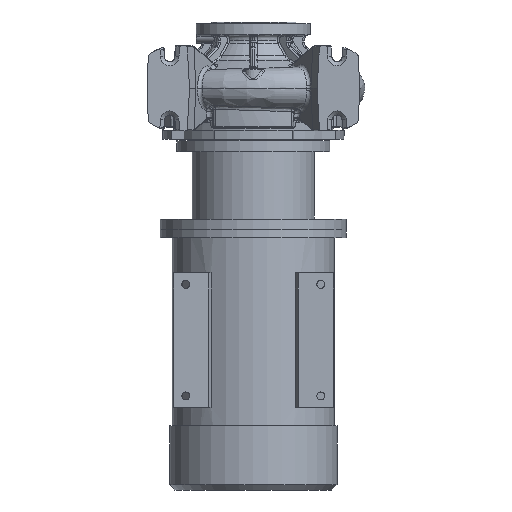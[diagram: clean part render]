
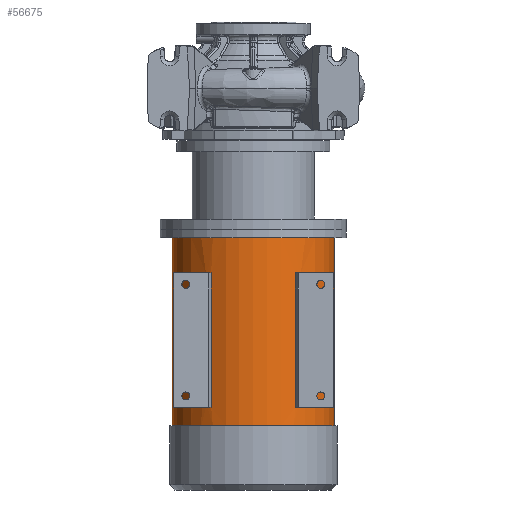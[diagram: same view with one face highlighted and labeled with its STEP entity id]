
A CAD part, front view. The second image highlights one B-rep face of the part: STEP entity #56675.
In plain terms, the highlighted cylindrical face has radius 152.5 mm (diameter 305 mm), a partial arc.
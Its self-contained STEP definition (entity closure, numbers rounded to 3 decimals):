
#1095 = VERTEX_POINT ( 'NONE', #65146 ) ;
#1857 = LINE ( 'NONE', #53153, #47134 ) ;
#2538 = CARTESIAN_POINT ( 'NONE',  ( 0., 0., -755.8 ) ) ;
#3019 = CIRCLE ( 'NONE', #22350, 152.5 ) ;
#3141 = DIRECTION ( 'NONE',  ( 0., 0., -1. ) ) ;
#3297 = CIRCLE ( 'NONE', #10461, 152.5 ) ;
#3655 = AXIS2_PLACEMENT_3D ( 'NONE', #28868, #56666, #13694 ) ;
#4927 = ORIENTED_EDGE ( 'NONE', *, *, #64813, .T. ) ;
#5490 = CIRCLE ( 'NONE', #3655, 152.5 ) ;
#5538 = DIRECTION ( 'NONE',  ( 0., 0., -1. ) ) ;
#8414 = CIRCLE ( 'NONE', #43609, 152.5 ) ;
#8687 = CARTESIAN_POINT ( 'NONE',  ( -79.357, -130.226, -347.3 ) ) ;
#9581 = DIRECTION ( 'NONE',  ( -1., 0., 0. ) ) ;
#10350 = VECTOR ( 'NONE', #74261, 1000. ) ;
#10461 = AXIS2_PLACEMENT_3D ( 'NONE', #73557, #10750, #9581 ) ;
#10547 = VERTEX_POINT ( 'NONE', #74054 ) ;
#10750 = DIRECTION ( 'NONE',  ( 0., 0., -1. ) ) ;
#11011 = DIRECTION ( 'NONE',  ( -1., 0., 0. ) ) ;
#12032 = CARTESIAN_POINT ( 'NONE',  ( 89.37, -123.569, -755.8 ) ) ;
#13357 = VERTEX_POINT ( 'NONE', #46115 ) ;
#13420 = VECTOR ( 'NONE', #5538, 1000. ) ;
#13694 = DIRECTION ( 'NONE',  ( -1., 0., 0. ) ) ;
#14976 = VERTEX_POINT ( 'NONE', #8687 ) ;
#15272 = DIRECTION ( 'NONE',  ( 0., 0., 1. ) ) ;
#15973 = EDGE_CURVE ( 'NONE', #37696, #77332, #5490, .T. ) ;
#17572 = VERTEX_POINT ( 'NONE', #76670 ) ;
#20765 = ORIENTED_EDGE ( 'NONE', *, *, #54645, .T. ) ;
#21584 = ORIENTED_EDGE ( 'NONE', *, *, #15973, .F. ) ;
#22323 = LINE ( 'NONE', #12032, #13420 ) ;
#22350 = AXIS2_PLACEMENT_3D ( 'NONE', #87629, #45918, #11011 ) ;
#23608 = CARTESIAN_POINT ( 'NONE',  ( -79.357, -130.226, -600.3 ) ) ;
#23656 = AXIS2_PLACEMENT_3D ( 'NONE', #42922, #34587, #70170 ) ;
#23885 = VERTEX_POINT ( 'NONE', #23608 ) ;
#24451 = DIRECTION ( 'NONE',  ( 0., 0., -1. ) ) ;
#24854 = CARTESIAN_POINT ( 'NONE',  ( -79.357, -130.226, -755.8 ) ) ;
#27127 = VERTEX_POINT ( 'NONE', #50569 ) ;
#28868 = CARTESIAN_POINT ( 'NONE',  ( 0., 0., -634.8 ) ) ;
#29372 = EDGE_CURVE ( 'NONE', #23885, #14976, #45010, .T. ) ;
#30484 = VERTEX_POINT ( 'NONE', #54366 ) ;
#31166 = ORIENTED_EDGE ( 'NONE', *, *, #68361, .F. ) ;
#31902 = DIRECTION ( 'NONE',  ( 0., 0., -1. ) ) ;
#32072 = VECTOR ( 'NONE', #77791, 1000. ) ;
#32794 = CARTESIAN_POINT ( 'NONE',  ( 79.357, -130.226, -755.8 ) ) ;
#33571 = VERTEX_POINT ( 'NONE', #48070 ) ;
#34587 = DIRECTION ( 'NONE',  ( 0., 0., -1. ) ) ;
#34948 = ORIENTED_EDGE ( 'NONE', *, *, #89770, .F. ) ;
#35084 = FACE_BOUND ( 'NONE', #63930, .T. ) ;
#35130 = CIRCLE ( 'NONE', #45528, 152.5 ) ;
#36947 = EDGE_CURVE ( 'NONE', #13357, #1095, #35130, .T. ) ;
#37111 = ORIENTED_EDGE ( 'NONE', *, *, #29372, .F. ) ;
#37696 = VERTEX_POINT ( 'NONE', #47539 ) ;
#37854 = EDGE_LOOP ( 'NONE', ( #37111, #70721, #31166, #34948 ) ) ;
#38448 = DIRECTION ( 'NONE',  ( 0., 0., 1. ) ) ;
#42689 = EDGE_CURVE ( 'NONE', #17572, #27127, #3019, .T. ) ;
#42922 = CARTESIAN_POINT ( 'NONE',  ( 0., 0., -347.3 ) ) ;
#43609 = AXIS2_PLACEMENT_3D ( 'NONE', #58470, #3141, #72712 ) ;
#45010 = LINE ( 'NONE', #24854, #57186 ) ;
#45528 = AXIS2_PLACEMENT_3D ( 'NONE', #49588, #15272, #71865 ) ;
#45918 = DIRECTION ( 'NONE',  ( 0., 0., 1. ) ) ;
#46115 = CARTESIAN_POINT ( 'NONE',  ( 79.357, -130.226, -600.3 ) ) ;
#47134 = VECTOR ( 'NONE', #68881, 1000. ) ;
#47539 = CARTESIAN_POINT ( 'NONE',  ( 152.5, 0., -634.8 ) ) ;
#48070 = CARTESIAN_POINT ( 'NONE',  ( -152.5, 0., -280.8 ) ) ;
#48282 = CARTESIAN_POINT ( 'NONE',  ( -152.5, 0., -634.8 ) ) ;
#49588 = CARTESIAN_POINT ( 'NONE',  ( 0., 0., -600.3 ) ) ;
#50569 = CARTESIAN_POINT ( 'NONE',  ( 89.37, -123.569, -347.3 ) ) ;
#51237 = VECTOR ( 'NONE', #31902, 1000. ) ;
#52766 = FACE_BOUND ( 'NONE', #37854, .T. ) ;
#53153 = CARTESIAN_POINT ( 'NONE',  ( -89.37, -123.569, -755.8 ) ) ;
#53799 = CARTESIAN_POINT ( 'NONE',  ( 152.5, 0., -755.8 ) ) ;
#54366 = CARTESIAN_POINT ( 'NONE',  ( -89.37, -123.569, -347.3 ) ) ;
#54618 = EDGE_CURVE ( 'NONE', #61891, #37696, #68956, .T. ) ;
#54645 = EDGE_CURVE ( 'NONE', #13357, #17572, #60086, .T. ) ;
#55138 = CIRCLE ( 'NONE', #23656, 152.5 ) ;
#56666 = DIRECTION ( 'NONE',  ( 0., 0., -1. ) ) ;
#56675 = ADVANCED_FACE ( 'NONE', ( #69436, #35084, #52766 ), #89235, .T. ) ;
#57186 = VECTOR ( 'NONE', #38448, 1000. ) ;
#58470 = CARTESIAN_POINT ( 'NONE',  ( 0., 0., -600.3 ) ) ;
#58701 = LINE ( 'NONE', #78110, #32072 ) ;
#59068 = DIRECTION ( 'NONE',  ( -1., 0., 0. ) ) ;
#60086 = LINE ( 'NONE', #32794, #10350 ) ;
#61891 = VERTEX_POINT ( 'NONE', #85036 ) ;
#62091 = ORIENTED_EDGE ( 'NONE', *, *, #42689, .T. ) ;
#62769 = ORIENTED_EDGE ( 'NONE', *, *, #76480, .T. ) ;
#63930 = EDGE_LOOP ( 'NONE', ( #69085, #20765, #62091, #62769 ) ) ;
#64813 = EDGE_CURVE ( 'NONE', #61891, #33571, #3297, .T. ) ;
#65146 = CARTESIAN_POINT ( 'NONE',  ( 89.37, -123.569, -600.3 ) ) ;
#68361 = EDGE_CURVE ( 'NONE', #30484, #10547, #1857, .T. ) ;
#68881 = DIRECTION ( 'NONE',  ( 0., 0., -1. ) ) ;
#68956 = LINE ( 'NONE', #53799, #51237 ) ;
#69085 = ORIENTED_EDGE ( 'NONE', *, *, #36947, .F. ) ;
#69436 = FACE_OUTER_BOUND ( 'NONE', #82098, .T. ) ;
#70170 = DIRECTION ( 'NONE',  ( 1., 0., 0. ) ) ;
#70721 = ORIENTED_EDGE ( 'NONE', *, *, #85779, .T. ) ;
#70742 = AXIS2_PLACEMENT_3D ( 'NONE', #2538, #24451, #59068 ) ;
#71865 = DIRECTION ( 'NONE',  ( -1., 0., 0. ) ) ;
#72712 = DIRECTION ( 'NONE',  ( 1., 0., 0. ) ) ;
#73557 = CARTESIAN_POINT ( 'NONE',  ( 0., 0., -280.8 ) ) ;
#74054 = CARTESIAN_POINT ( 'NONE',  ( -89.37, -123.569, -600.3 ) ) ;
#74261 = DIRECTION ( 'NONE',  ( 0., 0., 1. ) ) ;
#75004 = EDGE_CURVE ( 'NONE', #33571, #77332, #58701, .T. ) ;
#76480 = EDGE_CURVE ( 'NONE', #27127, #1095, #22323, .T. ) ;
#76670 = CARTESIAN_POINT ( 'NONE',  ( 79.357, -130.226, -347.3 ) ) ;
#77332 = VERTEX_POINT ( 'NONE', #48282 ) ;
#77606 = ORIENTED_EDGE ( 'NONE', *, *, #54618, .F. ) ;
#77791 = DIRECTION ( 'NONE',  ( 0., 0., -1. ) ) ;
#78110 = CARTESIAN_POINT ( 'NONE',  ( -152.5, 0., -755.8 ) ) ;
#82098 = EDGE_LOOP ( 'NONE', ( #77606, #4927, #83255, #21584 ) ) ;
#83255 = ORIENTED_EDGE ( 'NONE', *, *, #75004, .T. ) ;
#85036 = CARTESIAN_POINT ( 'NONE',  ( 152.5, 0., -280.8 ) ) ;
#85779 = EDGE_CURVE ( 'NONE', #23885, #10547, #8414, .T. ) ;
#87629 = CARTESIAN_POINT ( 'NONE',  ( 0., 0., -347.3 ) ) ;
#89235 = CYLINDRICAL_SURFACE ( 'NONE', #70742, 152.5 ) ;
#89770 = EDGE_CURVE ( 'NONE', #14976, #30484, #55138, .T. ) ;
